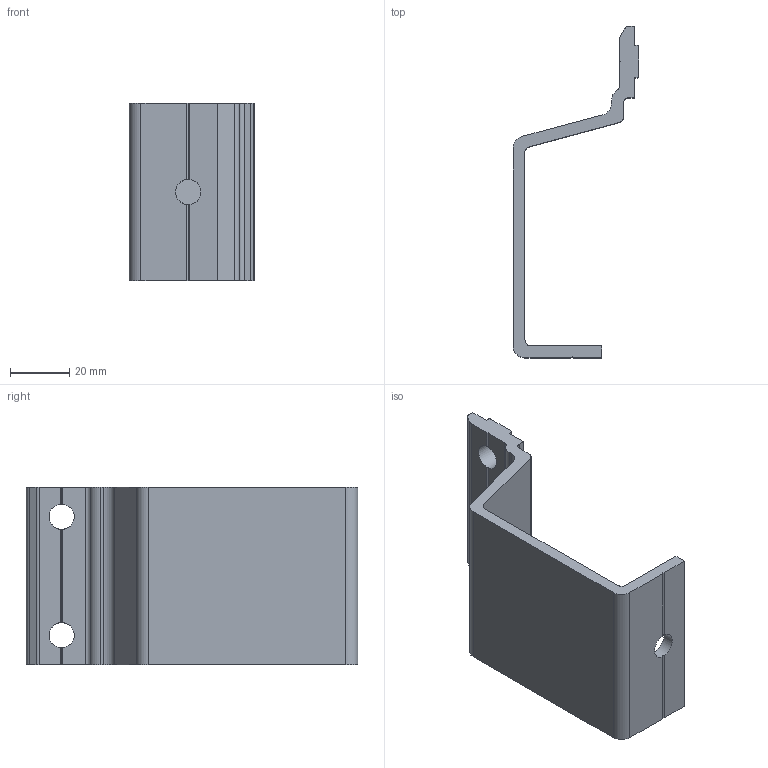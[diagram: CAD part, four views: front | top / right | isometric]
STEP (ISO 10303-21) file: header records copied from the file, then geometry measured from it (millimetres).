
FILE_DESCRIPTION(/* description */ ('BEAM SUPPORT BRACKET FOR 60x60 FOR ALL CONVEYORPROFILES'),/* implementation_level */ '2;1');
FILE_NAME(/* name */ '\\carryline.intra\privat\users\mathias\Desktop\Tillfälliga filer\100-1235.stp',/* time_stamp */ '2018-11-20T07:10:08+01:00',/* author */ ('PL'),/* organization */ ('CARRYLINE'),/* preprocessor_version */ 'ST-DEVELOPER v17',/* originating_system */ 'Autodesk Inventor 2018',/* authorisation */ '');
FILE_SCHEMA (('AUTOMOTIVE_DESIGN { 1 0 10303 214 3 1 1 }'));
Length unit declared in the file: millimetre
Products named in the file (1): 100-1235
Bounding box: 42.5 x 112 x 60 mm (x, y, z)
Volume: 40653.3 mm3; surface area: 21643.6 mm2
Topology: 1 solids, 1 shells, 48 faces, 150 edges, 101 vertices
Faces by surface type: plane 32, cylinder 16
Full cylindrical faces by diameter (mm): 8.5 x3
Entity records: 1742 total; most frequent: DIRECTION 301, ORIENTED_EDGE 300, CARTESIAN_POINT 300, EDGE_CURVE 150, AXIS2_PLACEMENT_3D 102, VERTEX_POINT 101, LINE 97, VECTOR 97
